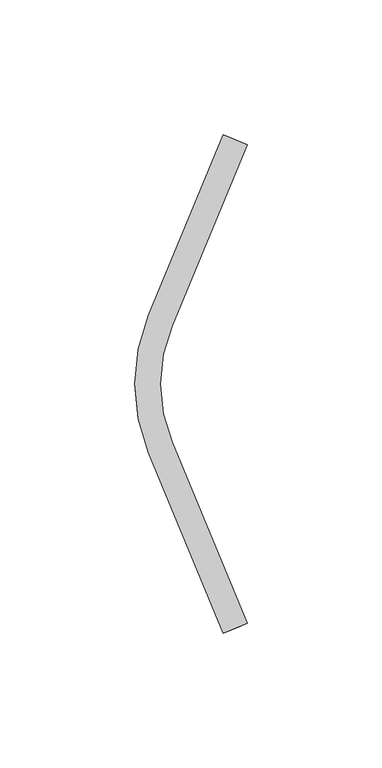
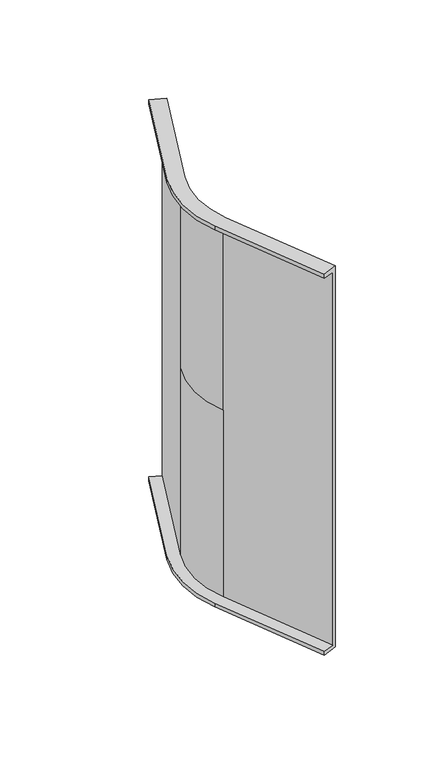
"""IFC4 building model written with IfcOpenShell, lengths in millimetres: cable carrier fitting geometry, CCT_Hyperline_FBTR-IRS45-CVR Крышка на вертикальный угол 45° внутренний (вверх) для оптического лотка : Крышка на вертикальный угол 45° внутренний (вверх) для оптического лотка."""

from ifc_helpers import new_model, si_unit, frame, origin, place, context, project, spatial, polyline, circle_curve, source, transform, mapped, element, save
from ifc_brep_helpers import plane_surface, cylinder_surface, revolved_surface, advanced_brep


def cable_carrier_fitting_ee7e6493(model_context):
    return source(origin(), model_context, "Body", "AdvancedBrep", [
        advanced_brep(
        [(46.653346, 89.7905585, 120.0), (40.1861893, 92.4693425, 120.0), (40.1861893, 92.4693425, 122.54), (49.0, 88.8185426, 122.54), (49.0, 88.8185426, -122.54), (40.1861893, 92.4693425, -122.54), (40.1861893, 92.4693425, -120.0), (46.653346, 89.7905585, -120.0), (12.3459696, 25.2571065, -120.0), (12.3459696, -25.2571065, -120.0), (40.1861893, -92.4693425, -120.0), (46.653346, -89.7905585, -120.0), (18.8131263, -22.5783225, -120.0), (18.8131263, 22.5783225, -120.0), (12.3459696, 25.2571065, -122.54), (21.1597803, 21.6063066, -122.54), (21.1597803, -21.6063066, -122.54), (49.0, -88.8185426, -122.54), (40.1861893, -92.4693425, -122.54), (12.3459696, -25.2571065, -122.54), (21.1597803, 21.6063066, 122.54), (21.1597803, 21.6063066, 0.0), (18.8131263, 22.5783225, 0.0), (18.8131263, 22.5783225, 120.0), (49.0, -88.8185426, 122.54), (40.1861893, -92.4693425, 122.54), (40.1861893, -92.4693425, 120.0), (46.653346, -89.7905585, 120.0), (21.1597803, -21.6063066, 0.0), (18.8131263, -22.5783225, 0.0), (21.1597803, -21.6063066, 122.54), (18.8131263, -22.5783225, 120.0), (12.3459696, -25.2571065, 120.0), (12.3459696, 25.2571065, 120.0), (12.3459696, 25.2571065, 122.54), (12.3459696, -25.2571065, 122.54)],
        [
            (0, 1),
            (1, 2),
            (2, 3),
            (3, 4),
            (4, 5),
            (5, 6),
            (6, 7),
            (7, 0),
            (6, 8),
            (8, 9, circle_curve(frame((73.3220187, 0.0, -120.0), z_axis=(0.0, 0.0, 1.0), x_axis=(-0.9238795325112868, 0.38268343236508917, 0.0)), 66.0)),
            (9, 10),
            (10, 11),
            (11, 12),
            (12, 13, circle_curve(frame((73.3220187, 0.0, -120.0), z_axis=(0.0, 0.0, -1.0), x_axis=(-0.9238795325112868, 0.38268343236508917, 0.0)), 59.0)),
            (13, 7),
            (5, 14),
            (14, 8),
            (4, 15),
            (15, 16, circle_curve(frame((73.3220187, 0.0, -122.54), z_axis=(0.0, 0.0, 1.0), x_axis=(-0.9238795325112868, 0.38268343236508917, 0.0)), 56.46)),
            (16, 17),
            (17, 18),
            (18, 19),
            (19, 14, circle_curve(frame((73.3220187, 0.0, -122.54), z_axis=(0.0, 0.0, -1.0), x_axis=(-0.9238795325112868, 0.38268343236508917, 0.0)), 66.0)),
            (3, 20),
            (20, 21),
            (21, 15),
            (13, 22),
            (22, 23),
            (23, 0),
            (10, 18),
            (17, 24),
            (24, 25),
            (25, 26),
            (26, 27),
            (27, 11),
            (19, 9),
            (21, 28, circle_curve(frame((73.3220187, 0.0, 0.0), z_axis=(0.0, 0.0, 1.0), x_axis=(-0.9238795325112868, 0.38268343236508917, 0.0)), 56.46)),
            (28, 16),
            (12, 29),
            (29, 22, circle_curve(frame((73.3220187, 0.0, 0.0), z_axis=(0.0, 0.0, -1.0), x_axis=(-0.9238795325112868, 0.38268343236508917, 0.0)), 59.0)),
            (28, 30),
            (30, 24),
            (27, 31),
            (31, 29),
            (23, 31, circle_curve(frame((73.3220187, 0.0, 120.0), z_axis=(0.0, 0.0, 1.0), x_axis=(-0.9238795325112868, 0.38268343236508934, 0.0)), 59.0)),
            (26, 32),
            (32, 33, circle_curve(frame((73.3220187, 0.0, 120.0), z_axis=(0.0, 0.0, -1.0), x_axis=(-0.9238795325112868, 0.38268343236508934, 0.0)), 66.0)),
            (33, 1),
            (33, 34),
            (34, 2),
            (34, 35, circle_curve(frame((73.3220187, 0.0, 122.54), z_axis=(0.0, 0.0, 1.0), x_axis=(-0.9238795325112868, 0.38268343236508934, 0.0)), 66.0)),
            (35, 25),
            (30, 20, circle_curve(frame((73.3220187, 0.0, 122.54), z_axis=(0.0, 0.0, -1.0), x_axis=(-0.9238795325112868, 0.38268343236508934, 0.0)), 56.46)),
            (32, 35),
        ],
        [
            plane_surface(frame((44.8055869, 90.5559254, -55.0), z_axis=(0.38268343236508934, 0.923879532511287, 0.0), x_axis=(0.0, 0.0, 1.0))),
            plane_surface(frame((40.1861893, 92.4693425, -120.0), z_axis=(0.0, 0.0, 1.0), x_axis=(-0.38268343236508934, -0.923879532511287, 0.0))),
            plane_surface(frame((40.1861893, 92.4693425, -122.54), z_axis=(-0.923879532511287, 0.38268343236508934, 0.0), x_axis=(-0.38268343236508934, -0.923879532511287, 0.0))),
            plane_surface(frame((49.0, 88.8185426, -122.54), z_axis=(0.0, 0.0, -1.0), x_axis=(-0.38268343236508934, -0.923879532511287, 0.0))),
            plane_surface(frame((49.0, 88.8185426, 0.0), z_axis=(0.923879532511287, -0.3826834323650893, 0.0), x_axis=(-0.3826834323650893, -0.923879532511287, 0.0))),
            plane_surface(frame((46.653346, 89.7905585, -120.0), z_axis=(-0.923879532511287, 0.3826834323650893, 0.0), x_axis=(-0.3826834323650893, -0.923879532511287, 0.0))),
            plane_surface(frame((44.8055869, -90.5559254, -55.0), z_axis=(0.3826834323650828, -0.9238795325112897, 0.0), x_axis=(0.0, 0.0, 1.0))),
            cylinder_surface(frame((73.3220187, 0.0, -55.0), z_axis=(0.0, 0.0, 1.0), x_axis=(-0.9238795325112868, 0.38268343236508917, 0.0)), 66.0),
            revolved_surface(polyline([(21.159780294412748, 21.606306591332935, 0.0), (21.159780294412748, 21.606306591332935, -122.54)]), (73.3220187, 0.0, -55.0), (0.0, 0.0, 1.0)),
            cylinder_surface(frame((73.3220187, 0.0, -55.0), z_axis=(0.0, 0.0, 1.0), x_axis=(-0.9238795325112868, 0.38268343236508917, 0.0)), 59.0),
            plane_surface(frame((12.3459696, -25.2571065, -122.54), z_axis=(-0.9238795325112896, -0.38268343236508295, 0.0), x_axis=(0.38268343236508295, -0.9238795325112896, 0.0))),
            plane_surface(frame((21.1597803, -21.6063066, 0.0), z_axis=(0.9238795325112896, 0.38268343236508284, 0.0), x_axis=(0.38268343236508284, -0.9238795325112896, 0.0))),
            plane_surface(frame((18.8131263, -22.5783225, -120.0), z_axis=(-0.9238795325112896, -0.382683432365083, 0.0), x_axis=(0.382683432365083, -0.9238795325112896, 0.0))),
            plane_surface(frame((46.653346, 89.7905585, 120.0), z_axis=(0.0, 0.0, -1.0), x_axis=(-0.3826834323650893, -0.923879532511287, 0.0))),
            plane_surface(frame((40.1861893, 92.4693425, 120.0), z_axis=(-0.923879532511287, 0.38268343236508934, 0.0), x_axis=(-0.38268343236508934, -0.923879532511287, 0.0))),
            plane_surface(frame((40.1861893, 92.4693425, 122.54), z_axis=(0.0, 0.0, 1.0), x_axis=(-0.3826834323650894, -0.923879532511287, 0.0))),
            cylinder_surface(frame((73.3220187, 0.0, 60.0), z_axis=(0.0, 0.0, 1.0), x_axis=(-0.9238795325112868, 0.38268343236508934, 0.0)), 66.0),
            revolved_surface(polyline([(21.159780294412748, 21.606306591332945, 122.54), (21.159780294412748, 21.606306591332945, 0.0)]), (73.3220187, 0.0, 60.0), (0.0, 0.0, 1.0)),
            cylinder_surface(frame((73.3220187, 0.0, 60.0), z_axis=(0.0, 0.0, 1.0), x_axis=(-0.9238795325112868, 0.38268343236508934, 0.0)), 59.0),
            plane_surface(frame((12.3459696, -25.2571065, 120.0), z_axis=(-0.9238795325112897, -0.3826834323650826, 0.0), x_axis=(0.3826834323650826, -0.9238795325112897, 0.0))),
        ],
        [
            (0, [[1, 2, 3, 4, 5, 6, 7, 8]]),
            (1, [[-7, 9, 10, 11, 12, 13, 14, 15]]),
            (2, [[-6, 16, 17, -9]]),
            (3, [[-5, 18, 19, 20, 21, 22, 23, -16]]),
            (4, [[-4, 24, 25, 26, -18]]),
            (5, [[-8, -15, 27, 28, 29]]),
            (6, [[-12, 30, -21, 31, 32, 33, 34, 35]]),
            (7, [[-10, -17, -23, 36]]),
            (8, [[-19, -26, 37, 38]]),
            (9, [[-14, 39, 40, -27]]),
            (10, [[-11, -36, -22, -30]]),
            (11, [[-31, -20, -38, 41, 42]]),
            (12, [[-13, -35, 43, 44, -39]]),
            (13, [[-1, -29, 45, -43, -34, 46, 47, 48]]),
            (14, [[-2, -48, 49, 50]]),
            (15, [[-3, -50, 51, 52, -32, -42, 53, -24]]),
            (16, [[-47, 54, -51, -49]]),
            (17, [[-53, -41, -37, -25]]),
            (18, [[-45, -28, -40, -44]]),
            (19, [[-46, -33, -52, -54]]),
        ],
    ),
    ])


if __name__ == "__main__":
    model = new_model("IFC4")
    model_context = context("Model", 3, world=origin())
    ifc_project = project(units=[si_unit("LENGTHUNIT", "METRE", prefix="MILLI")], contexts=[model_context])
    site = spatial("IfcSite", under=ifc_project)
    building = spatial("IfcBuilding", under=site)
    placement = place(None, origin())
    cable_carrier_fitting_shape = cable_carrier_fitting_ee7e6493(model_context)
    element("IfcCableCarrierFitting", 1, ObjectType="CCT_Hyperline_FBTR-IRS45-CVR Крышка на вертикальный угол 45° внутренний (вверх) для оптического лотка : Крышка на вертикальный угол 45° внутренний (вверх) для оптического лотка", at=placement, inside=building, context=model_context, shape_type="MappedRepresentation", body=[
        mapped(cable_carrier_fitting_shape, transform((0.0, 0.0, 0.0), x_axis=(1.0, 0.0, 0.0), y_axis=(0.0, 1.0, 0.0), z_axis=(0.0, 0.0, 1.0))),
    ])
    save(model, "model.ifc")
